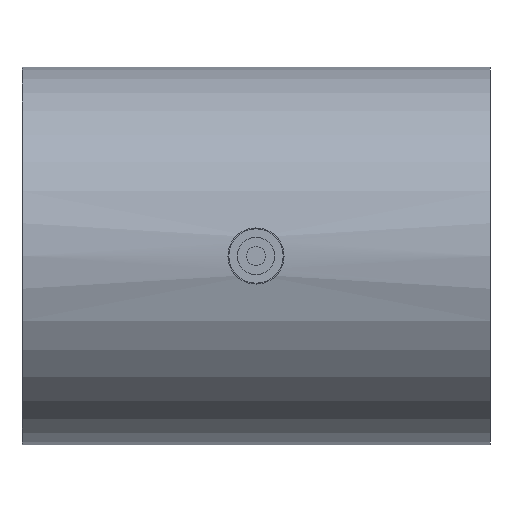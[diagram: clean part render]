
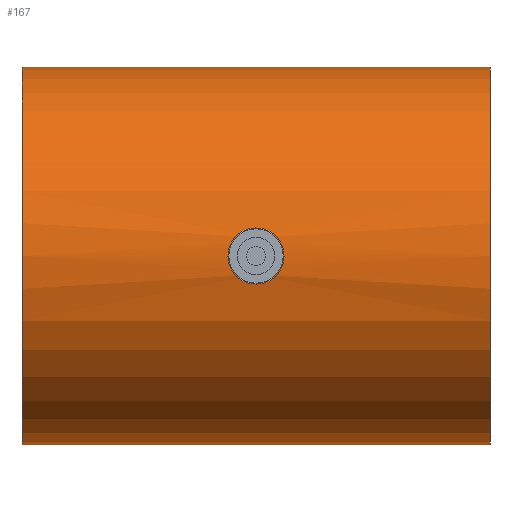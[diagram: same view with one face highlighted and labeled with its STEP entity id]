
A CAD part, front view. The second image highlights one B-rep face of the part: STEP entity #167.
In plain terms, the highlighted cylindrical face has radius 100.8 mm (diameter 201.6 mm), a full revolution.
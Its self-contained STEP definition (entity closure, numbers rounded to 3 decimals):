
#95=B_SPLINE_CURVE_WITH_KNOTS('',3,(#1153,#1154,#1155,#1156,#1157,#1158,
#1159,#1160,#1161,#1162,#1163,#1164,#1165,#1166,#1167,#1168,#1169,#1170),
 .UNSPECIFIED.,.T.,.F.,(2,2,2,2,2,2,2,2,2,2,2),(-0.125,0.,0.125,0.25,0.375,
0.5,0.625,0.75,0.875,1.,1.125),.UNSPECIFIED.);
#96=B_SPLINE_CURVE_WITH_KNOTS('',3,(#1172,#1173,#1174,#1175,#1176,#1177,
#1178,#1179,#1180,#1181,#1182,#1183,#1184,#1185,#1186,#1187,#1188,#1189),
 .UNSPECIFIED.,.T.,.F.,(2,2,2,2,2,2,2,2,2,2,2),(-0.125,0.,0.125,0.25,0.375,
0.5,0.625,0.75,0.875,1.,1.125),.UNSPECIFIED.);
#120=CYLINDRICAL_SURFACE('',#803,100.8);
#167=ADVANCED_FACE('',(#285,#286,#287,#288),#120,.T.);
#285=FACE_BOUND('',#371,.T.);
#286=FACE_BOUND('',#372,.T.);
#287=FACE_BOUND('',#373,.T.);
#288=FACE_BOUND('',#374,.T.);
#371=EDGE_LOOP('',(#501));
#372=EDGE_LOOP('',(#502));
#373=EDGE_LOOP('',(#503));
#374=EDGE_LOOP('',(#504));
#501=ORIENTED_EDGE('',*,*,#685,.F.);
#502=ORIENTED_EDGE('',*,*,#686,.F.);
#503=ORIENTED_EDGE('',*,*,#681,.T.);
#504=ORIENTED_EDGE('',*,*,#683,.T.);
#611=VERTEX_POINT('',#1144);
#613=VERTEX_POINT('',#1149);
#615=VERTEX_POINT('',#1171);
#616=VERTEX_POINT('',#1190);
#681=EDGE_CURVE('',#611,#611,#739,.T.);
#683=EDGE_CURVE('',#613,#613,#741,.T.);
#685=EDGE_CURVE('',#615,#615,#95,.T.);
#686=EDGE_CURVE('',#616,#616,#96,.T.);
#739=CIRCLE('',#797,100.8);
#741=CIRCLE('',#800,100.8);
#797=AXIS2_PLACEMENT_3D('',#1143,#931,#932);
#800=AXIS2_PLACEMENT_3D('',#1148,#937,#938);
#803=AXIS2_PLACEMENT_3D('',#1191,#943,#944);
#931=DIRECTION('',(-1.,0.,0.));
#932=DIRECTION('',(0.,0.,1.));
#937=DIRECTION('',(1.,0.,0.));
#938=DIRECTION('',(0.,0.,-1.));
#943=DIRECTION('',(1.,0.,0.));
#944=DIRECTION('',(0.,0.,-1.));
#1143=CARTESIAN_POINT('',(125.,-51.,125.));
#1144=CARTESIAN_POINT('',(125.,-51.,225.8));
#1148=CARTESIAN_POINT('',(-125.,-51.,125.));
#1149=CARTESIAN_POINT('',(-125.,-51.,24.2));
#1153=CARTESIAN_POINT('',(2.644,49.303,115.));
#1154=CARTESIAN_POINT('',(-2.644,49.303,115.));
#1155=CARTESIAN_POINT('',(-5.228,49.422,116.086));
#1156=CARTESIAN_POINT('',(-8.915,49.681,119.774));
#1157=CARTESIAN_POINT('',(-9.999,49.8,122.384));
#1158=CARTESIAN_POINT('',(-10.001,49.8,127.605));
#1159=CARTESIAN_POINT('',(-8.941,49.683,130.2));
#1160=CARTESIAN_POINT('',(-5.208,49.421,133.936));
#1161=CARTESIAN_POINT('',(-2.615,49.303,134.999));
#1162=CARTESIAN_POINT('',(2.607,49.303,135.001));
#1163=CARTESIAN_POINT('',(5.219,49.422,133.92));
#1164=CARTESIAN_POINT('',(8.91,49.681,130.236));
#1165=CARTESIAN_POINT('',(9.997,49.8,127.652));
#1166=CARTESIAN_POINT('',(10.003,49.8,122.367));
#1167=CARTESIAN_POINT('',(8.919,49.682,119.78));
#1168=CARTESIAN_POINT('',(5.234,49.422,116.089));
#1169=CARTESIAN_POINT('',(2.644,49.303,115.));
#1170=CARTESIAN_POINT('',(-2.644,49.303,115.));
#1171=CARTESIAN_POINT('',(0.,49.303,115.));
#1172=CARTESIAN_POINT('',(-2.644,-151.303,115.));
#1173=CARTESIAN_POINT('',(2.644,-151.303,115.));
#1174=CARTESIAN_POINT('',(5.228,-151.422,116.086));
#1175=CARTESIAN_POINT('',(8.915,-151.681,119.774));
#1176=CARTESIAN_POINT('',(9.999,-151.8,122.384));
#1177=CARTESIAN_POINT('',(10.001,-151.8,127.605));
#1178=CARTESIAN_POINT('',(8.941,-151.683,130.2));
#1179=CARTESIAN_POINT('',(5.208,-151.421,133.936));
#1180=CARTESIAN_POINT('',(2.615,-151.303,134.999));
#1181=CARTESIAN_POINT('',(-2.607,-151.303,135.001));
#1182=CARTESIAN_POINT('',(-5.219,-151.422,133.92));
#1183=CARTESIAN_POINT('',(-8.91,-151.681,130.236));
#1184=CARTESIAN_POINT('',(-9.997,-151.8,127.652));
#1185=CARTESIAN_POINT('',(-10.003,-151.8,122.367));
#1186=CARTESIAN_POINT('',(-8.919,-151.682,119.78));
#1187=CARTESIAN_POINT('',(-5.234,-151.422,116.089));
#1188=CARTESIAN_POINT('',(-2.644,-151.303,115.));
#1189=CARTESIAN_POINT('',(2.644,-151.303,115.));
#1190=CARTESIAN_POINT('',(0.,-151.303,115.));
#1191=CARTESIAN_POINT('',(-125.,-51.,125.));
